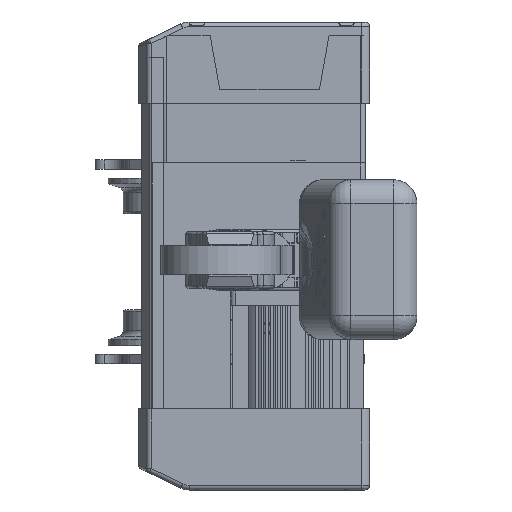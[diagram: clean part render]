
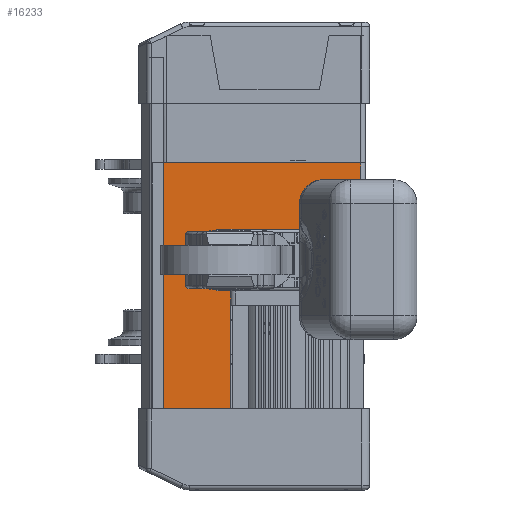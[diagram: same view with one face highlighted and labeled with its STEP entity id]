
A CAD part, front view. The second image highlights one B-rep face of the part: STEP entity #16233.
In plain terms, the highlighted planar face has unit normal (0, -1, 0).
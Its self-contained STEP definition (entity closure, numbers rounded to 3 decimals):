
#2200=LINE('',#87843,#6071);
#2679=LINE('',#89684,#6550);
#2795=LINE('',#90267,#6666);
#2816=LINE('',#90306,#6687);
#6071=VECTOR('',#64370,1.);
#6550=VECTOR('',#65941,1.);
#6666=VECTOR('',#66377,1.);
#6687=VECTOR('',#66432,1.);
#9363=B_SPLINE_CURVE_WITH_KNOTS('',3,(#87888,#87889,#87890,#87891),
 .UNSPECIFIED.,.F.,.F.,(4,4),(0.,1.),.UNSPECIFIED.);
#9412=B_SPLINE_CURVE_WITH_KNOTS('',3,(#90172,#90173,#90174,#90175),
 .UNSPECIFIED.,.F.,.F.,(4,4),(0.,1.),.UNSPECIFIED.);
#9413=B_SPLINE_CURVE_WITH_KNOTS('',3,(#90177,#90178,#90179,#90180),
 .UNSPECIFIED.,.F.,.F.,(4,4),(0.,1.),.UNSPECIFIED.);
#9415=B_SPLINE_CURVE_WITH_KNOTS('',3,(#90198,#90199,#90200,#90201),
 .UNSPECIFIED.,.F.,.F.,(4,4),(0.,1.),.UNSPECIFIED.);
#11838=FACE_OUTER_BOUND('',#22353,.T.);
#14328=PLANE('',#57280);
#16233=ADVANCED_FACE('',(#11838),#14328,.T.);
#22353=EDGE_LOOP('',(#30546,#30547,#30548,#30549,#30550,#30551,#30552,#30553));
#30546=ORIENTED_EDGE('',*,*,#48208,.T.);
#30547=ORIENTED_EDGE('',*,*,#48207,.T.);
#30548=ORIENTED_EDGE('',*,*,#48042,.T.);
#30549=ORIENTED_EDGE('',*,*,#48270,.T.);
#30550=ORIENTED_EDGE('',*,*,#47290,.T.);
#30551=ORIENTED_EDGE('',*,*,#48249,.T.);
#30552=ORIENTED_EDGE('',*,*,#48216,.T.);
#30553=ORIENTED_EDGE('',*,*,#47311,.T.);
#41677=VERTEX_POINT('',#87844);
#41678=VERTEX_POINT('',#87845);
#41694=VERTEX_POINT('',#87879);
#41697=VERTEX_POINT('',#87887);
#42177=VERTEX_POINT('',#89673);
#42182=VERTEX_POINT('',#89683);
#42302=VERTEX_POINT('',#90176);
#42306=VERTEX_POINT('',#90197);
#47290=EDGE_CURVE('',#41677,#41678,#2200,.T.);
#47311=EDGE_CURVE('',#41694,#41697,#9363,.T.);
#48042=EDGE_CURVE('',#42177,#42182,#2679,.T.);
#48207=EDGE_CURVE('',#42302,#42177,#9412,.T.);
#48208=EDGE_CURVE('',#41697,#42302,#9413,.T.);
#48216=EDGE_CURVE('',#42306,#41694,#9415,.T.);
#48249=EDGE_CURVE('',#41678,#42306,#2795,.T.);
#48270=EDGE_CURVE('',#42182,#41677,#2816,.T.);
#57280=AXIS2_PLACEMENT_3D('',#90307,#66433,#66434);
#64370=DIRECTION('',(1.,0.,0.));
#65941=DIRECTION('',(-1.,0.,0.));
#66377=DIRECTION('',(0.,0.,1.));
#66432=DIRECTION('',(0.,0.,-1.));
#66433=DIRECTION('',(0.,-1.,0.));
#66434=DIRECTION('',(-1.,0.,0.));
#87843=CARTESIAN_POINT('',(65.,-738.742,123.427));
#87844=CARTESIAN_POINT('',(-139.392,-738.742,123.427));
#87845=CARTESIAN_POINT('',(-70.,-738.742,123.427));
#87879=CARTESIAN_POINT('',(-65.001,-738.742,245.927));
#87887=CARTESIAN_POINT('',(65.,-738.742,245.927));
#87888=CARTESIAN_POINT('',(-65.001,-738.742,245.927));
#87889=CARTESIAN_POINT('',(-21.667,-738.742,245.927));
#87890=CARTESIAN_POINT('',(21.666,-738.742,245.927));
#87891=CARTESIAN_POINT('',(65.,-738.742,245.927));
#89673=CARTESIAN_POINT('',(65.,-738.742,378.927));
#89683=CARTESIAN_POINT('',(-139.392,-738.742,378.927));
#89684=CARTESIAN_POINT('',(-579.905,-738.742,378.927));
#90172=CARTESIAN_POINT('',(65.,-738.742,350.927));
#90173=CARTESIAN_POINT('',(65.,-738.742,360.261));
#90174=CARTESIAN_POINT('',(65.,-738.742,369.594));
#90175=CARTESIAN_POINT('',(65.,-738.742,378.927));
#90176=CARTESIAN_POINT('',(65.,-738.742,350.927));
#90177=CARTESIAN_POINT('',(65.,-738.742,245.927));
#90178=CARTESIAN_POINT('',(65.,-738.742,280.927));
#90179=CARTESIAN_POINT('',(65.,-738.742,315.927));
#90180=CARTESIAN_POINT('',(65.,-738.742,350.927));
#90197=CARTESIAN_POINT('',(-70.,-738.742,245.927));
#90198=CARTESIAN_POINT('',(-70.,-738.742,245.927));
#90199=CARTESIAN_POINT('',(-68.334,-738.742,245.927));
#90200=CARTESIAN_POINT('',(-66.667,-738.742,245.927));
#90201=CARTESIAN_POINT('',(-65.001,-738.742,245.927));
#90267=CARTESIAN_POINT('',(-70.,-738.742,186.927));
#90306=CARTESIAN_POINT('',(-139.392,-738.742,359.427));
#90307=CARTESIAN_POINT('',(65.,-738.742,245.927));
